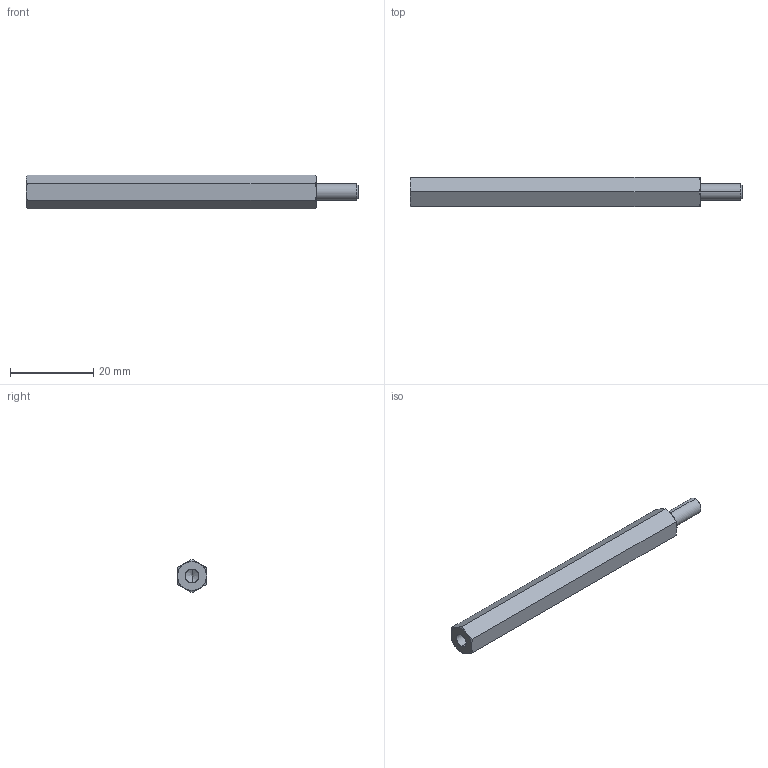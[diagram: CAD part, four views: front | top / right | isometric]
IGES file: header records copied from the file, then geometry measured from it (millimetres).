
Start section: SolidWorks IGES file using analytic representation for surfaces
Global section: file name: C:\Users\render1\Desktop\P0185_IGES\P0185.04-70.igs; native system: SolidWorks 2009; preprocessor: SolidWorks 2009; author: render1; date: 130627.112308; units: millimetre
Bounding box: 80 x 7 x 8.08 mm (x, y, z)
Surface area: 2006.2 mm2 (no closed solid volume)
Topology: 0 solids, 0 shells, 29 faces, 320 edges, 318 vertices
Faces by surface type: revolution 20, bspline 9
